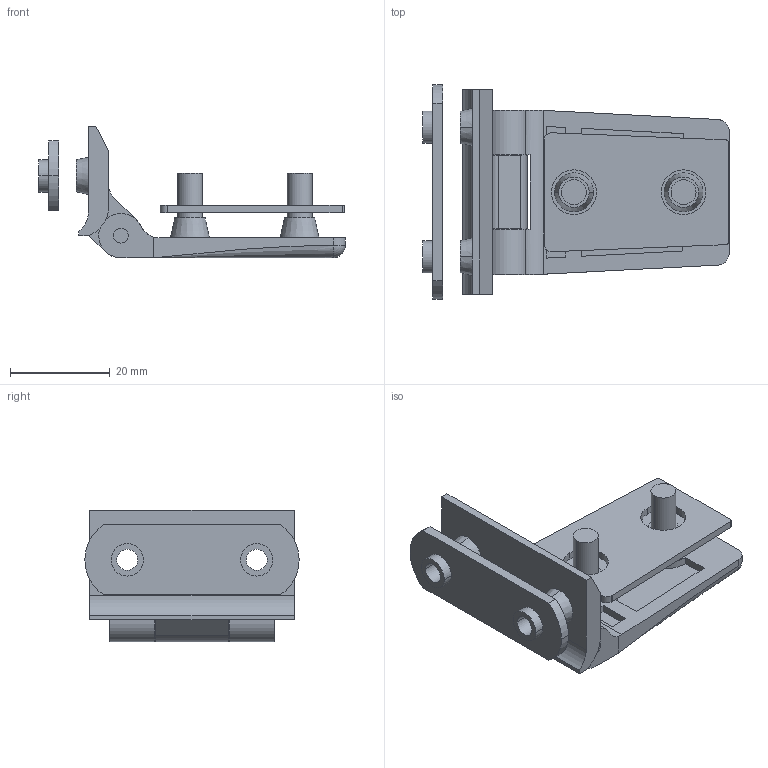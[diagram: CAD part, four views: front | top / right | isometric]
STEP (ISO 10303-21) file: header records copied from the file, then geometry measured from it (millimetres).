
FILE_DESCRIPTION (( 'STEP AP214' ), '1' );
FILE_NAME ('3.ZN2.001.STEP', '2016-09-09T10:23:13', ( '' ), ( '' ), 'SwSTEP 2.0', 'SolidWorks 2015', '' );
FILE_SCHEMA (( 'AUTOMOTIVE_DESIGN' ));
Length unit declared in the file: millimetre
Products named in the file (7): 3.ZN1.001.01; 3.ZN2.001; 3.ZN1.001.05; 3.ZN2.001.05; 3.ZN1.001.04; 3.ZN1.001.03; 3.ZN2.001.02
Assembly tree (7 placements, depth 2):
  3.ZN2.001
    3.ZN1.001.01
    3.ZN2.001.02
    3.ZN1.001.03
    3.ZN1.001.04  x2
    3.ZN2.001.05
    3.ZN1.001.05
Bounding box: 61.55 x 43 x 26.49 mm (x, y, z)
Volume: 12620.5 mm3; surface area: 11295.6 mm2
Topology: 7 solids, 7 shells, 147 faces, 347 edges, 219 vertices
Faces by surface type: plane 70, cylinder 55, cone 18, bspline 2, sphere 2
Entity records: 4539 total; most frequent: DIRECTION 755, CARTESIAN_POINT 745, ORIENTED_EDGE 666, EDGE_CURVE 333, AXIS2_PLACEMENT_3D 279, VERTEX_POINT 215, VECTOR 197, LINE 197
